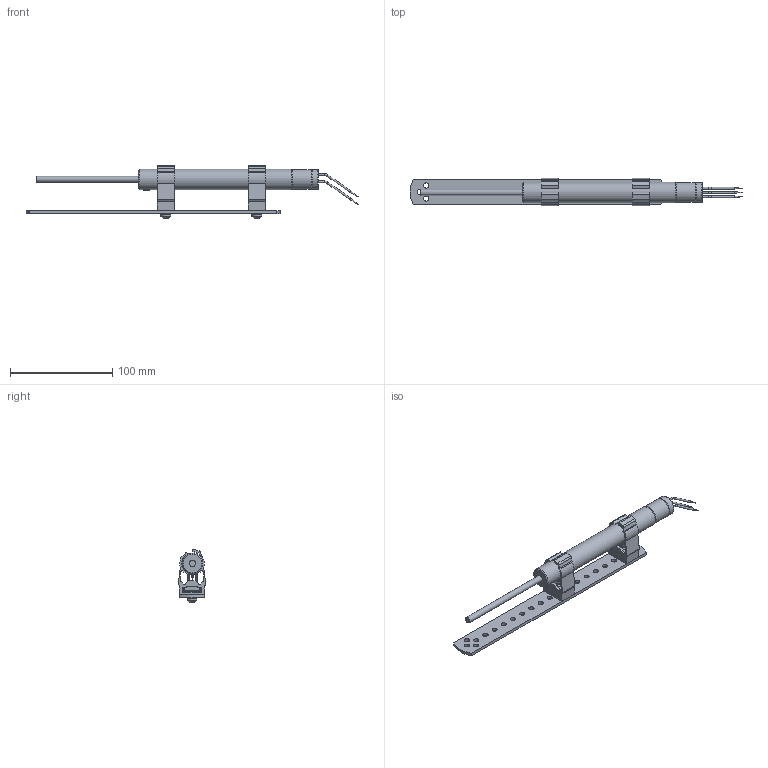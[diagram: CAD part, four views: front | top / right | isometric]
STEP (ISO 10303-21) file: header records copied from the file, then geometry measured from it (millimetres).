
FILE_DESCRIPTION(('Bauteilbeschreibung','HiCAD-Model','HiCAD-STEP-TRANSLATION','Bauteilbeschreibung'),'2;1');
FILE_NAME('CHARGING ELECTRODE PINNER CLAW.STP','2014-01-27T15:34:14+00:00',('Konstrukteur'),('Konstrukteur Firma GmbH'),' HiCAD 2011, Step 1600.0 ','HiCAD 2011','confidential');
FILE_SCHEMA(('AUTOMOTIVE_DESIGN { 1 2 10303 214 0 1 1 1 }'));
Length unit declared in the file: millimetre
Products named in the file (6): CHARGING ELECTRODE PINNER CLAW; MOUNTING_2_ASSEMBLY; A250101122; A131480075; A1314800750; A_CHARGING ELECTRODE PINNER CL
Assembly tree (5 placements, depth 3):
  CHARGING ELECTRODE PINNER CLAW
    MOUNTING_2_ASSEMBLY
      A250101122
      A131480075
      A1314800750
    A_CHARGING ELECTRODE PINNER CL
Bounding box: 324.13 x 26.72 x 51.65 mm (x, y, z)
Volume: 86871.5 mm3; surface area: 42464 mm2
Topology: 8 solids, 8 shells, 344 faces, 983 edges, 660 vertices
Faces by surface type: cylinder 156, plane 149, cone 27, torus 7, sphere 5
Full cylindrical faces by diameter (mm): 1.7 x6, 4.019 x2, 5 x23, 6 x3, 9.5 x2, 10 x2, 13 x2, 19.05 x2, 20 x1
Entity records: 16306 total; most frequent: CARTESIAN_POINT 2571, DIRECTION 1890, ORIENTED_EDGE 1726, COLOUR_RGB 939, PRESENTATION_STYLE_ASSIGNMENT 939, OVER_RIDING_STYLED_ITEM 935, EDGE_CURVE 863, CURVE_STYLE 862
